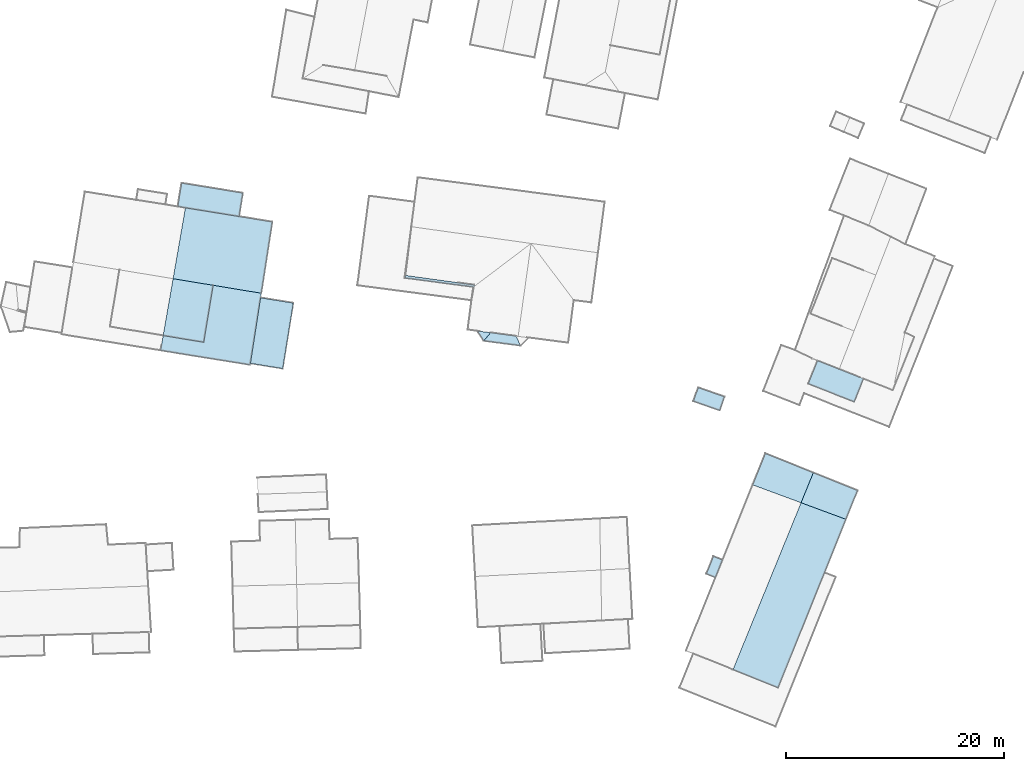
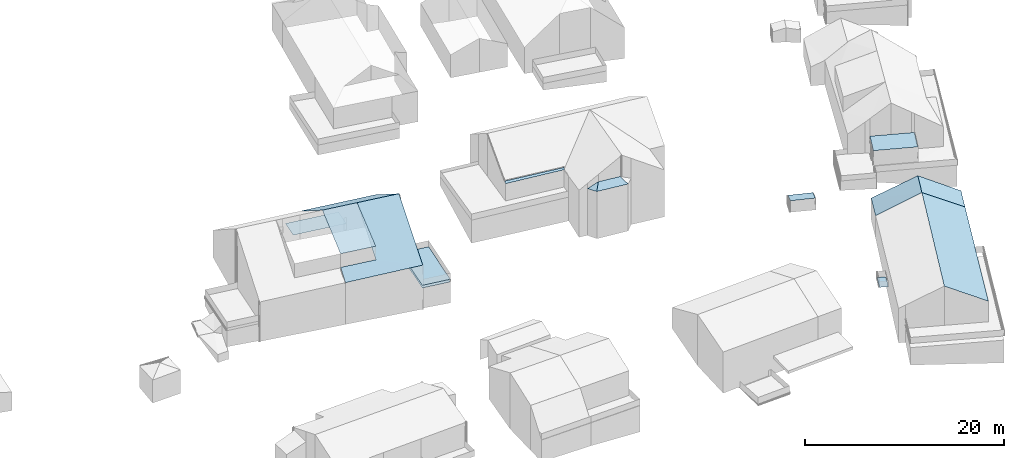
# Not in any storey, part 54 of 57: 30 roofs.
"""IFC4 building model written with IfcOpenShell, lengths in metres."""

from ifc_helpers import new_model, entity, si_unit, converted_unit, frame, origin, place, context, subcontext, project, spatial, face_set, surface_model, element, save


model = new_model("IFC4")

# Units and contexts
model_context = context("Model", 3, precision=1e-05, world=origin())
body_context = subcontext(model_context, "Body", "Model", "MODEL_VIEW")
ifc_project = project(units=[converted_unit("PLANEANGLEUNIT", "DEGREE", entity("IfcRatioMeasure", 0.0174532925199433), si_unit("PLANEANGLEUNIT", "RADIAN"), dimensions=[0, 0, 0, 0, 0, 0, 0]), si_unit("AREAUNIT", "SQUARE_METRE"), si_unit("LENGTHUNIT", "METRE")], contexts=[model_context])

# Site, building
site_placement = place(None, origin())
site = spatial("IfcSite", under=ifc_project, at=site_placement, Name="_site")
building_1_placement = place(site_placement, origin())
building_1 = spatial("IfcBuilding", under=site, at=building_1_placement, Name="_building")

# Roofs
roof_1_placement = place(building_1_placement, origin())
element("IfcRoof", 1, at=roof_1_placement, inside=building_1, Name="Roof", PredefinedType="NOTDEFINED", context=body_context, shape_type="SurfaceModel", body=[
    surface_model("IfcFaceBasedSurfaceModel", [(263.756, 71.207, 111.04), (267.872, 69.688, 108.76), (268.934, 72.325, 108.76), (264.88, 73.961, 111.04)], [face_set([[[0, 1, 2, 3]]])]),
])
roof_2_placement = place(building_1_placement, origin())
element("IfcRoof", 2, at=roof_2_placement, inside=building_1, Name="Roof", PredefinedType="NOTDEFINED", context=body_context, shape_type="SurfaceModel", body=[
    surface_model("IfcFaceBasedSurfaceModel", [(259.33, 72.84, 108.76), (263.756, 71.207, 111.04), (264.88, 73.961, 111.04), (260.489, 75.724, 108.76)], [face_set([[[0, 1, 2, 3]]])]),
])
roof_3_placement = place(building_1_placement, origin())
element("IfcRoof", 3, at=roof_3_placement, inside=building_1, Name="Roof", PredefinedType="NOTDEFINED", context=body_context, shape_type="SurfaceModel", body=[
    surface_model("IfcFaceBasedSurfaceModel", [(263.756, 71.207, 111.04), (267.872, 69.688, 108.76), (268.934, 72.325, 108.76), (264.88, 73.961, 111.04)], [face_set([[[0, 1, 2, 3]]])]),
])
roof_4_placement = place(building_1_placement, origin())
element("IfcRoof", 4, at=roof_4_placement, inside=building_1, Name="Roof", PredefinedType="NOTDEFINED", context=body_context, shape_type="SurfaceModel", body=[
    surface_model("IfcFaceBasedSurfaceModel", [(259.33, 72.84, 108.76), (263.756, 71.207, 111.04), (264.88, 73.961, 111.04), (260.489, 75.724, 108.76)], [face_set([[[0, 1, 2, 3]]])]),
])

# Building
building_2_placement = place(site_placement, origin())
building_2 = spatial("IfcBuilding", under=site, at=building_2_placement, Name="_building")

# Roofs
for number, where, name in (
    (5, (0.0, 0.0, 0.0), "Roof"),
    (6, (0.0, 0.0, 0.0), "Roof"),
):
    element("IfcRoof", number, at=place(building_2_placement, frame(where)), inside=building_2, Name=name, PredefinedType="NOTDEFINED", context=body_context, shape_type="SurfaceModel", body=[
        surface_model("IfcFaceBasedSurfaceModel", [(253.886, 80.512, 107.84), (256.298, 79.665, 107.84), (256.738, 80.915, 107.6), (254.326, 81.762, 107.6)], [face_set([[[0, 1, 2, 3]]])]),
    ])

# Building
building_3_placement = place(site_placement, origin())
building_3 = spatial("IfcBuilding", under=site, at=building_3_placement, Name="_building")

# Roofs
roof_5_placement = place(building_3_placement, origin())
element("IfcRoof", 7, at=roof_5_placement, inside=building_3, Name="Roof", PredefinedType="NOTDEFINED", context=body_context, shape_type="SurfaceModel", body=[
    surface_model("IfcFaceBasedSurfaceModel", [(257.513, 55.902, 111.04), (261.656, 54.234, 108.76), (265.906, 64.801, 108.76), (267.872, 69.688, 108.76), (263.756, 71.207, 111.04)], [face_set([[[0, 1, 2, 3, 4]]])]),
])
for number, where, name in (
    (8, (0.0, 0.0, 0.0), "Roof"),
    (9, (0.0, 0.0, 0.0), "Roof"),
):
    element("IfcRoof", number, at=place(building_3_placement, frame(where)), inside=building_3, Name=name, PredefinedType="NOTDEFINED", context=body_context, shape_type="SurfaceModel", body=[
        surface_model("IfcFaceBasedSurfaceModel", [(256.558, 65.96, 106.42), (255.725, 66.29, 106.42), (255.077, 64.684, 106.42), (255.909, 64.344, 106.42)], [face_set([[[0, 1, 2, 3]]])]),
    ])
roof_6_placement = place(building_3_placement, origin())
element("IfcRoof", 10, at=roof_6_placement, inside=building_3, Name="Roof", PredefinedType="NOTDEFINED", context=body_context, shape_type="SurfaceModel", body=[
    surface_model("IfcFaceBasedSurfaceModel", [(257.513, 55.902, 111.04), (261.656, 54.234, 108.76), (265.906, 64.801, 108.76), (267.872, 69.688, 108.76), (263.756, 71.207, 111.04)], [face_set([[[0, 1, 2, 3, 4]]])]),
])

# Building
building_4_placement = place(site_placement, origin())
building_4 = spatial("IfcBuilding", under=site, at=building_4_placement, Name="_building")

# Roofs
for number, where, name in (
    (11, (0.0, 0.0, 0.0), "Roof"),
    (12, (0.0, 0.0, 0.0), "Roof"),
):
    element("IfcRoof", number, at=place(building_4_placement, frame(where)), inside=building_4, Name=name, PredefinedType="NOTDEFINED", context=body_context, shape_type="SurfaceModel", body=[
        surface_model("IfcFaceBasedSurfaceModel", [(233.709, 90.98, 112.35), (233.768, 91.024, 112.383), (233.794, 91.179, 112.486), (227.5, 92.046, 112.511), (227.414, 91.808, 112.35)], [face_set([[[0, 1, 2, 3, 4]]])]),
    ])

# Building
building_5_placement = place(site_placement, origin())
building_5 = spatial("IfcBuilding", under=site, at=building_5_placement, Name="_building")

# Roofs
roof_7_placement = place(building_5_placement, origin())
element("IfcRoof", 13, at=roof_7_placement, inside=building_5, Name="Roof", PredefinedType="NOTDEFINED", context=body_context, shape_type="SurfaceModel", body=[
    surface_model("IfcFaceBasedSurfaceModel", [(235.292, 86.801, 112.88), (234.095, 86.949, 112.35), (234.664, 86.045, 112.35)], [face_set([[[0, 1, 2]]])]),
])
for number, where, name in (
    (14, (0.0, 0.0, 0.0), "Roof"),
    (15, (0.0, 0.0, 0.0), "Roof"),
):
    element("IfcRoof", number, at=place(building_5_placement, frame(where)), inside=building_5, Name=name, PredefinedType="NOTDEFINED", context=body_context, shape_type="SurfaceModel", body=[
        surface_model("IfcFaceBasedSurfaceModel", [(234.664, 86.045, 112.35), (238.046, 85.605, 112.35), (237.626, 86.486, 112.88), (235.292, 86.801, 112.88)], [face_set([[[0, 1, 2, 3]]])]),
    ])
roof_8_placement = place(building_5_placement, origin())
element("IfcRoof", 16, at=roof_8_placement, inside=building_5, Name="Roof", PredefinedType="NOTDEFINED", context=body_context, shape_type="SurfaceModel", body=[
    surface_model("IfcFaceBasedSurfaceModel", [(235.292, 86.801, 112.88), (234.095, 86.949, 112.35), (234.664, 86.045, 112.35)], [face_set([[[0, 1, 2]]])]),
])

# Building
building_6_placement = place(site_placement, origin())
building_6 = spatial("IfcBuilding", under=site, at=building_6_placement, Name="_building")

# Roofs
roof_9_placement = place(building_6_placement, origin())
element("IfcRoof", 17, at=roof_9_placement, inside=building_6, Name="Roof", PredefinedType="NOTDEFINED", context=body_context, shape_type="SurfaceModel", body=[
    surface_model("IfcFaceBasedSurfaceModel", [(213.273, 83.984, 109.28), (216.233, 83.505, 109.28), (217.204, 89.515, 109.28), (214.204, 89.996, 109.28)], [face_set([[[0, 1, 2, 3]]])]),
])
for number, where, name in (
    (18, (0.0, 0.0, 0.0), "Roof"),
    (19, (0.0, 0.0, 0.0), "Roof"),
):
    element("IfcRoof", number, at=place(building_6_placement, frame(where)), inside=building_6, Name=name, PredefinedType="NOTDEFINED", context=body_context, shape_type="SurfaceModel", body=[
        surface_model("IfcFaceBasedSurfaceModel", [(214.204, 89.996, 109.6), (213.273, 83.984, 109.6), (216.233, 83.505, 109.6), (217.204, 89.515, 109.6)], [face_set([[[0, 1, 2, 3]]])]),
    ])
roof_10_placement = place(building_6_placement, origin())
element("IfcRoof", 20, at=roof_10_placement, inside=building_6, Name="Roof", PredefinedType="NOTDEFINED", context=body_context, shape_type="SurfaceModel", body=[
    surface_model("IfcFaceBasedSurfaceModel", [(213.273, 83.984, 109.28), (216.233, 83.505, 109.28), (217.204, 89.515, 109.28), (214.204, 89.996, 109.28)], [face_set([[[0, 1, 2, 3]]])]),
])

# Building
building_7_placement = place(site_placement, origin())
building_7 = spatial("IfcBuilding", under=site, at=building_7_placement, Name="_building")

# Roofs
for number, where, name in (
    (21, (0.0, 0.0, 0.0), "Roof"),
    (22, (0.0, 0.0, 0.0), "Roof"),
):
    element("IfcRoof", number, at=place(building_7_placement, frame(where)), inside=building_7, Name=name, PredefinedType="NOTDEFINED", context=body_context, shape_type="SurfaceModel", body=[
        surface_model("IfcFaceBasedSurfaceModel", [(267.253, 83.451, 109.51), (265.261, 84.238, 109.51), (264.42, 82.106, 109.32), (268.634, 80.447, 109.32), (269.474, 82.568, 109.51), (269.157, 82.696, 109.51)], [face_set([[[0, 1, 2, 3, 4, 5]]])]),
    ])

# Building
building_8_placement = place(site_placement, origin())
building_8 = spatial("IfcBuilding", under=site, at=building_8_placement, Name="_building")

# Roofs
roof_11_placement = place(building_8_placement, origin())
element("IfcRoof", 23, at=roof_11_placement, inside=building_8, Name="Roof", PredefinedType="NOTDEFINED", context=body_context, shape_type="SurfaceModel", body=[
    surface_model("IfcFaceBasedSurfaceModel", [(214.274, 90.415, 116.58), (215.287, 96.955, 112.12), (207.312, 98.242, 112.12), (206.181, 91.749, 116.585), (209.859, 91.142, 116.583)], [face_set([[[0, 1, 2, 3, 4]]])]),
])
roof_12_placement = place(building_8_placement, origin())
element("IfcRoof", 24, at=roof_12_placement, inside=building_8, Name="Roof", PredefinedType="NOTDEFINED", context=body_context, shape_type="SurfaceModel", body=[
    surface_model("IfcFaceBasedSurfaceModel", [(206.181, 91.749, 116.58), (205.272, 86.532, 114.72), (208.995, 85.916, 114.72), (209.859, 91.142, 116.58)], [face_set([[[0, 1, 2, 3]]])]),
])
roof_13_placement = place(building_8_placement, origin())
element("IfcRoof", 25, at=roof_13_placement, inside=building_8, Name="Roof", PredefinedType="NOTDEFINED", context=body_context, shape_type="SurfaceModel", body=[
    surface_model("IfcFaceBasedSurfaceModel", [(209.859, 91.142, 116.583), (208.995, 85.916, 113.056), (205.272, 86.532, 113.056), (205.035, 85.168, 112.09), (213.249, 83.845, 112.17), (213.273, 83.984, 112.26), (214.204, 89.996, 116.3), (214.274, 90.415, 116.58)], [face_set([[[0, 1, 2, 3, 4, 5, 6, 7]]])]),
])
roof_14_placement = place(building_8_placement, origin())
element("IfcRoof", 26, at=roof_14_placement, inside=building_8, Name="Roof", PredefinedType="NOTDEFINED", context=body_context, shape_type="SurfaceModel", body=[
    surface_model("IfcFaceBasedSurfaceModel", [(214.274, 90.415, 116.58), (215.287, 96.955, 112.12), (207.312, 98.242, 112.12), (206.181, 91.749, 116.585), (209.859, 91.142, 116.583)], [face_set([[[0, 1, 2, 3, 4]]])]),
])
roof_15_placement = place(building_8_placement, origin())
element("IfcRoof", 27, at=roof_15_placement, inside=building_8, Name="Roof", PredefinedType="NOTDEFINED", context=body_context, shape_type="SurfaceModel", body=[
    surface_model("IfcFaceBasedSurfaceModel", [(206.181, 91.749, 116.58), (205.272, 86.532, 114.72), (208.995, 85.916, 114.72), (209.859, 91.142, 116.58)], [face_set([[[0, 1, 2, 3]]])]),
])
for number, where, name in (
    (28, (0.0, 0.0, 0.0), "Roof"),
    (29, (0.0, 0.0, 0.0), "Roof"),
):
    element("IfcRoof", number, at=place(building_8_placement, frame(where)), inside=building_8, Name=name, PredefinedType="NOTDEFINED", context=body_context, shape_type="SurfaceModel", body=[
        surface_model("IfcFaceBasedSurfaceModel", [(206.615, 98.359, 109.36), (212.237, 97.447, 109.36), (212.587, 99.6, 109.36), (206.965, 100.512, 109.36)], [face_set([[[0, 1, 2, 3]]])]),
    ])
roof_16_placement = place(building_8_placement, origin())
element("IfcRoof", 30, at=roof_16_placement, inside=building_8, Name="Roof", PredefinedType="NOTDEFINED", context=body_context, shape_type="SurfaceModel", body=[
    surface_model("IfcFaceBasedSurfaceModel", [(209.859, 91.142, 116.583), (208.995, 85.916, 113.056), (205.272, 86.532, 113.056), (205.035, 85.168, 112.09), (213.249, 83.845, 112.17), (213.273, 83.984, 112.26), (214.204, 89.996, 116.3), (214.274, 90.415, 116.58)], [face_set([[[0, 1, 2, 3, 4, 5, 6, 7]]])]),
])

save(model, "model.ifc")
